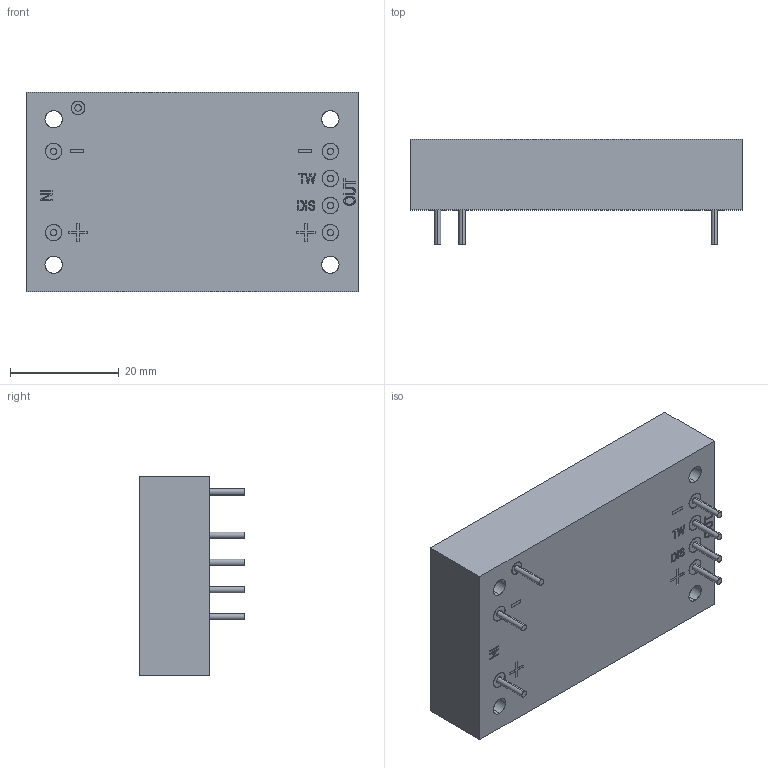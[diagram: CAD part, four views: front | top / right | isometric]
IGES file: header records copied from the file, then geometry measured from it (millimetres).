
Start section: SolidWorks IGES file using analytic representation for surfaces
Global section: file name: C:\Users\cdavies\Desktop\DSF226.IGS; native system: SolidWorks 2017; preprocessor: SolidWorks 2017; author: cdavies; date: 180912.120819; units: millimetre
Bounding box: 61.2 x 19.4 x 36.8 mm (x, y, z)
Surface area: 7701.3 mm2 (no closed solid volume)
Topology: 0 solids, 0 shells, 207 faces, 2445 edges, 2445 vertices
Faces by surface type: bspline 171, revolution 36
